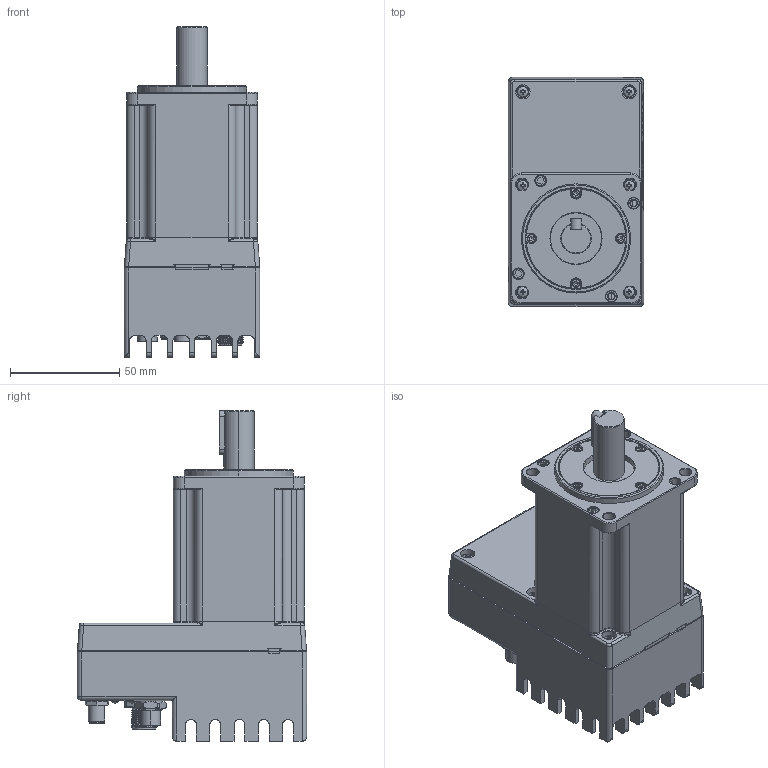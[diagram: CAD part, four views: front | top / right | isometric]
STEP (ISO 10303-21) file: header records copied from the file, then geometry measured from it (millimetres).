
FILE_DESCRIPTION (( 'STEP AP214' ), '1' );
FILE_NAME ('IM1-60SX3X5XX20B00.STEP', '2024-01-09T07:39:40', ( '' ), ( '' ), 'SwSTEP 2.0', 'SolidWorks 2020', '' );
FILE_SCHEMA (( 'AUTOMOTIVE_DESIGN' ));
Length unit declared in the file: millimetre
Products named in the file (1): IM1-60SX3X5XX20B00
Bounding box: 62 x 105 x 151.3 mm (x, y, z)
Surface area: 60219.6 mm2 (no closed solid volume)
Topology: 0 solids, 80 shells, 1096 faces, 4471 edges, 3420 vertices
Faces by surface type: plane 502, cylinder 367, cone 138, torus 40, bspline 38, sphere 11
Full cylindrical faces by diameter (mm): 0.5 x12, 1.5 x4, 1.6 x1, 6.6 x6, 7 x2, 9.9 x1, 10.7 x2, 11 x2, 14 x2, 20 x1
Entity records: 68088 total; most frequent: CARTESIAN_POINT 20229, ORIENTED_EDGE 7361, DIRECTION 7131, EDGE_CURVE 4383, VERTEX_POINT 3412, AXIS2_PLACEMENT_3D 2615, VECTOR 1901, LINE 1901
